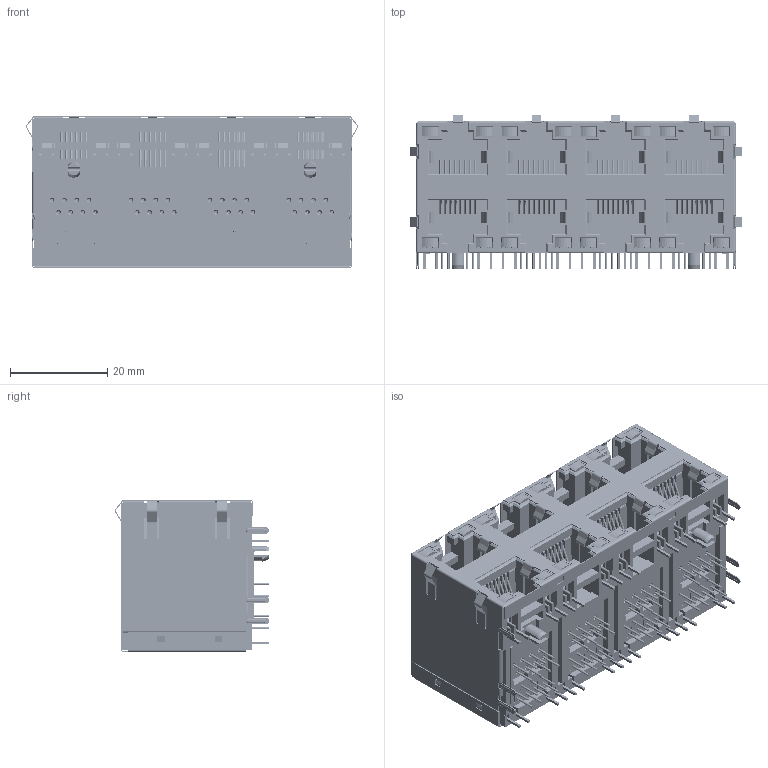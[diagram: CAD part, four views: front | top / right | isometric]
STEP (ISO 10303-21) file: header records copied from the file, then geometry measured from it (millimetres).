
FILE_DESCRIPTION((''),'2;1');
FILE_NAME('ASM0001_ASM','2024-09-06T14:50:35',('HQW'),(''),'CREO PARAMETRIC BY PTC INC, 2024153','CREO PARAMETRIC BY PTC INC, 2024153','');
FILE_SCHEMA(('CONFIG_CONTROL_DESIGN','GEOMETRIC_VALIDATION_PROPERTIES_MIM'));
Products named in the file (16): 5921-LED-2X4-00; LED000; PRT0001; PRT0002; 5921-LED-2X4-000; 5921-LED-2XN-1000; 5921-LED-2XN-PIN0001; 5921-LED-2XN-000_ASM; 5921-LED-2XN-2000; 5921-LED-2XN-PIN0002; ASM0001_ASM
Assembly tree (33 placements, depth 3):
  ASM0001_ASM
    5921-LED-2X4-00
    LED000  x4
    PRT0001  x4
    LED000  x4
    PRT0002  x4
    5921-LED-2X4-000
    5921-LED-2XN-000_ASM  x4
      5921-LED-2XN-1000
      5921-LED-2XN-PIN0001
    5921-LED-2XN-000_ASM  x4
      5921-LED-2XN-2000
      5921-LED-2XN-1000
      5921-LED-2XN-PIN0002
    5921-LED-2X4-000
    5921-LED-2X4-00
Bounding box: 68.44 x 31.75 x 31.29 mm (x, y, z)
Volume: 31117.4 mm3; surface area: 69214.2 mm2
Topology: 96 solids, 96 shells, 6458 faces, 17072 edges, 10696 vertices
Faces by surface type: plane 4376, cylinder 1542, torus 332, cone 196, bspline 12
Entity records: 109143 total; most frequent: CARTESIAN_POINT 20055, ORIENTED_EDGE 18700, DIRECTION 17900, EDGE_CURVE 9350, VECTOR 7670, LINE 7670, VERTEX_POINT 5812, AXIS2_PLACEMENT_3D 5115
